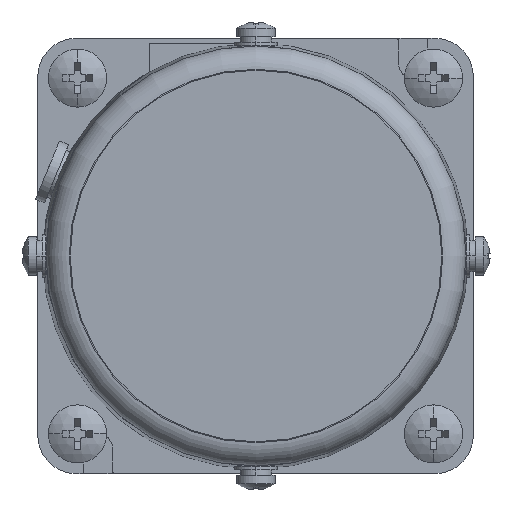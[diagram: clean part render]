
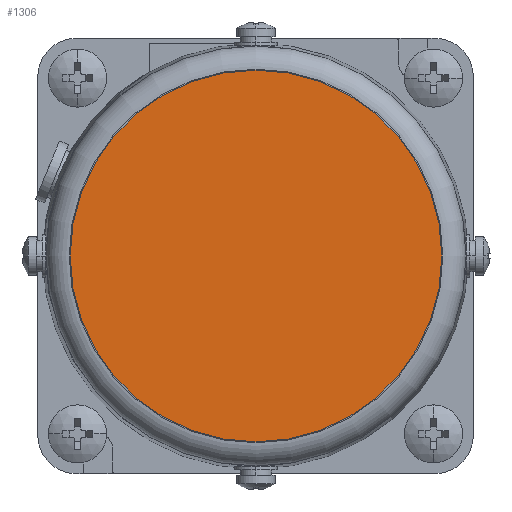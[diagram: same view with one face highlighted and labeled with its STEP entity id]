
A CAD part, left-side view. The second image highlights one B-rep face of the part: STEP entity #1306.
In plain terms, the highlighted planar face has unit normal (-1, 0, 0).
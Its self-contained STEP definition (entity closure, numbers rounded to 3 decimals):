
#559=PLANE('',#15247);
#1306=ADVANCED_FACE('',(#2518),#559,.F.);
#2518=FACE_OUTER_BOUND('',#3386,.T.);
#3386=EDGE_LOOP('',(#7120));
#7120=ORIENTED_EDGE('',*,*,#12200,.T.);
#10592=VERTEX_POINT('',#23200);
#12200=EDGE_CURVE('',#10592,#10592,#14017,.T.);
#14017=CIRCLE('',#15246,38.4);
#15246=AXIS2_PLACEMENT_3D('',#23199,#17858,#17859);
#15247=AXIS2_PLACEMENT_3D('',#23201,#17860,#17861);
#17858=DIRECTION('',(-1.,0.,0.));
#17859=DIRECTION('',(0.,-1.,0.));
#17860=DIRECTION('',(1.,0.,0.));
#17861=DIRECTION('',(0.,0.,-1.));
#23199=CARTESIAN_POINT('',(2487.292,-775.254,0.));
#23200=CARTESIAN_POINT('',(2487.292,-813.654,0.));
#23201=CARTESIAN_POINT('',(2487.292,-775.254,0.));
